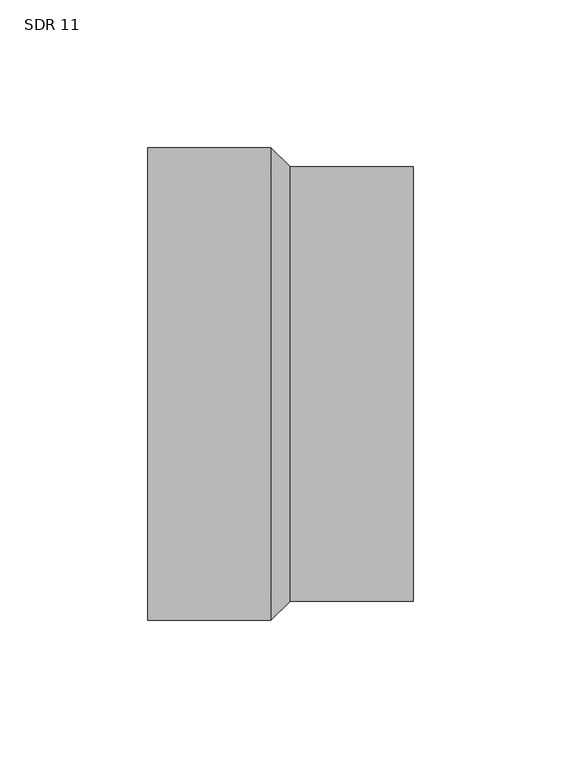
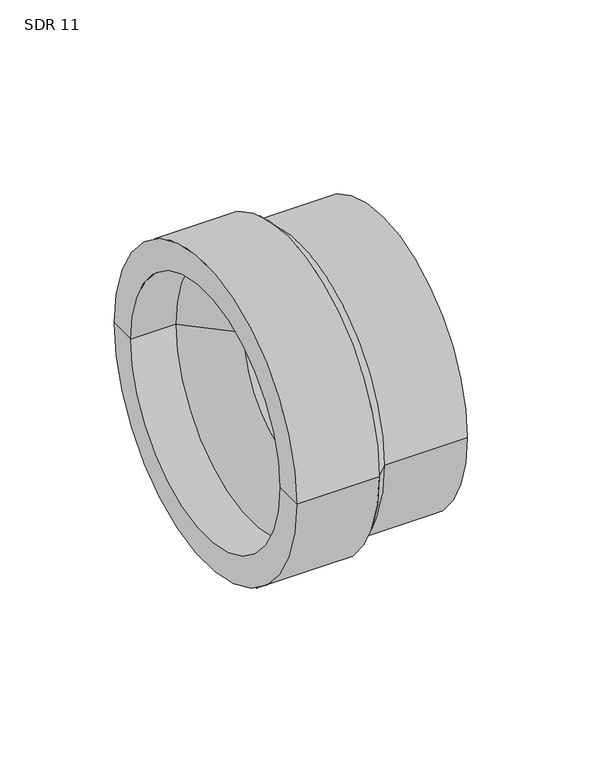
"""IFC4 building model written with IfcOpenShell, lengths in millimetres: pipe fitting geometry, Aquatherm - Reducing Coupling Butt Weld to Socket : SDR 11."""

from ifc_helpers import new_model, si_unit, frame, origin, place, context, project, spatial, polyline, circle_curve, source, transform, mapped, element, save
from ifc_brep_helpers import plane_surface, cylinder_surface, revolved_surface, advanced_brep


def sdr_11_aef982d0(model_context):
    return source(origin(), model_context, "Body", "AdvancedBrep", [
        advanced_brep(
        [(3.2385, -73.533, 0.0), (3.2385, 73.533, 0.0), (44.958, 73.533, 0.0), (44.958, -73.533, 0.0), (44.958, 54.991, 0.0), (44.958, -54.991, 0.0), (-22.225, -65.405, 0.0), (-22.225, 65.405, 0.0), (-44.958, 65.405, 0.0), (-44.958, -65.405, 0.0), (-44.958, 80.01, 0.0), (-44.958, -80.01, 0.0), (8.128, 54.991, 0.0), (8.128, -54.991, 0.0), (8.128, 44.958, 0.0), (8.128, -44.958, 0.0), (0.508, 44.958, 0.0), (0.508, -44.958, 0.0), (-3.2385, 80.01, 0.0), (-3.2385, -80.01, 0.0)],
        [
            (0, 1, circle_curve(frame((3.2385, 0.0, 0.0), z_axis=(1.0, 0.0, 0.0), x_axis=(0.0, 1.0, 0.0)), 73.533)),
            (1, 2),
            (2, 3, circle_curve(frame((44.958, 0.0, 0.0), z_axis=(-1.0, 0.0, 0.0), x_axis=(0.0, 1.0, 0.0)), 73.533)),
            (3, 0),
            (1, 0, circle_curve(frame((3.2385, 0.0, 0.0), z_axis=(1.0, 0.0, 0.0), x_axis=(0.0, 1.0, 0.0)), 73.533)),
            (3, 2, circle_curve(frame((44.958, 0.0, 0.0), z_axis=(-1.0, 0.0, 0.0), x_axis=(0.0, 1.0, 0.0)), 73.533)),
            (2, 4),
            (4, 5, circle_curve(frame((44.958, 0.0, 0.0), z_axis=(-1.0, 0.0, 0.0), x_axis=(0.0, 1.0, 0.0)), 54.991)),
            (5, 3),
            (5, 4, circle_curve(frame((44.958, 0.0, 0.0), z_axis=(-1.0, 0.0, 0.0), x_axis=(0.0, 1.0, 0.0)), 54.991)),
            (6, 7, circle_curve(frame((-22.225, 0.0, 0.0), z_axis=(1.0, 0.0, 0.0), x_axis=(0.0, 1.0, 0.0)), 65.405)),
            (7, 8),
            (8, 9, circle_curve(frame((-44.958, 0.0, 0.0), z_axis=(-1.0, 0.0, 0.0), x_axis=(0.0, 1.0, 0.0)), 65.405)),
            (9, 6),
            (7, 6, circle_curve(frame((-22.225, 0.0, 0.0), z_axis=(1.0, 0.0, 0.0), x_axis=(0.0, 1.0, 0.0)), 65.405)),
            (9, 8, circle_curve(frame((-44.958, 0.0, 0.0), z_axis=(-1.0, 0.0, 0.0), x_axis=(0.0, 1.0, 0.0)), 65.405)),
            (8, 10),
            (10, 11, circle_curve(frame((-44.958, 0.0, 0.0), z_axis=(-1.0, 0.0, 0.0), x_axis=(0.0, 1.0, 0.0)), 80.01)),
            (11, 9),
            (11, 10, circle_curve(frame((-44.958, 0.0, 0.0), z_axis=(-1.0, 0.0, 0.0), x_axis=(0.0, 1.0, 0.0)), 80.01)),
            (4, 12),
            (12, 13, circle_curve(frame((8.128, 0.0, 0.0), z_axis=(-1.0, 0.0, 0.0), x_axis=(0.0, 1.0, 0.0)), 54.991)),
            (13, 5),
            (13, 12, circle_curve(frame((8.128, 0.0, 0.0), z_axis=(-1.0, 0.0, 0.0), x_axis=(0.0, 1.0, 0.0)), 54.991)),
            (12, 14),
            (14, 15, circle_curve(frame((8.128, 0.0, 0.0), z_axis=(-1.0, 0.0, 0.0), x_axis=(0.0, 1.0, 0.0)), 44.958)),
            (15, 13),
            (15, 14, circle_curve(frame((8.128, 0.0, 0.0), z_axis=(-1.0, 0.0, 0.0), x_axis=(0.0, 1.0, 0.0)), 44.958)),
            (14, 16),
            (16, 17, circle_curve(frame((0.508, 0.0, 0.0), z_axis=(-1.0, 0.0, 0.0), x_axis=(0.0, 1.0, 0.0)), 44.958)),
            (17, 15),
            (17, 16, circle_curve(frame((0.508, 0.0, 0.0), z_axis=(-1.0, 0.0, 0.0), x_axis=(0.0, 1.0, 0.0)), 44.958)),
            (10, 18),
            (18, 19, circle_curve(frame((-3.2385, 0.0, 0.0), z_axis=(-1.0, 0.0, 0.0), x_axis=(0.0, 1.0, 0.0)), 80.01)),
            (19, 11),
            (19, 18, circle_curve(frame((-3.2385, 0.0, 0.0), z_axis=(-1.0, 0.0, 0.0), x_axis=(0.0, 1.0, 0.0)), 80.01)),
            (16, 7),
            (6, 17),
            (18, 1),
            (0, 19),
        ],
        [
            cylinder_surface(frame((-77.0252293, 0.0, 0.0), z_axis=(-1.0, 0.0, 0.0), x_axis=(0.0, 1.0, 0.0)), 73.533),
            plane_surface(frame((44.958, 0.0, 0.0), z_axis=(1.0, 0.0, 0.0), x_axis=(0.0, 1.0, 0.0))),
            revolved_surface(polyline([(-44.958, 65.405, 0.0), (-22.225, 65.405, 0.0)]), (-77.0252293, 0.0, 0.0), (-1.0, 0.0, 0.0)),
            plane_surface(frame((-44.958, 0.0, 0.0), z_axis=(-1.0, 0.0, 0.0), x_axis=(0.0, 1.0, 0.0))),
            revolved_surface(polyline([(8.128, 54.991, 0.0), (44.958, 54.991, 0.0)]), (-77.0252293, 0.0, 0.0), (-1.0, 0.0, 0.0)),
            plane_surface(frame((8.128, 0.0, 0.0), z_axis=(1.0, 0.0, 0.0), x_axis=(0.0, 1.0, 0.0))),
            revolved_surface(polyline([(0.5079999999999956, 44.958, 0.0), (8.128, 44.958, 0.0)]), (-77.0252293, 0.0, 0.0), (-1.0, 0.0, 0.0)),
            cylinder_surface(frame((-77.0252293, 0.0, 0.0), z_axis=(-1.0, 0.0, 0.0), x_axis=(0.0, 1.0, 0.0)), 80.01),
            revolved_surface(polyline([(-22.225, 65.405, 0.0), (0.508, 44.958, 0.0)]), (-77.0252293, 0.0, 0.0), (-1.0, 0.0, 0.0)),
            revolved_surface(polyline([(3.2385, 73.533, 0.0), (-3.2385, 80.01, 0.0)]), (-77.0252293, 0.0, 0.0), (-1.0, 0.0, 0.0)),
        ],
        [
            (0, [[1, 2, 3, 4]]),
            (0, [[5, -4, 6, -2]]),
            (1, [[-3, 7, 8, 9]]),
            (1, [[-6, -9, 10, -7]]),
            (2, [[11, 12, 13, 14]]),
            (2, [[15, -14, 16, -12]]),
            (3, [[-13, 17, 18, 19]]),
            (3, [[-16, -19, 20, -17]]),
            (4, [[-8, 21, 22, 23]]),
            (4, [[-10, -23, 24, -21]]),
            (5, [[-22, 25, 26, 27]]),
            (5, [[-24, -27, 28, -25]]),
            (6, [[-26, 29, 30, 31]]),
            (6, [[-28, -31, 32, -29]]),
            (7, [[-18, 33, 34, 35]]),
            (7, [[-20, -35, 36, -33]]),
            (8, [[-30, 37, -11, 38]]),
            (8, [[-32, -38, -15, -37]]),
            (9, [[-34, 39, -1, 40]]),
            (9, [[-36, -40, -5, -39]]),
        ],
    ),
    ])


if __name__ == "__main__":
    model = new_model("IFC4")
    model_context = context("Model", 3, world=origin())
    ifc_project = project(units=[si_unit("LENGTHUNIT", "METRE", prefix="MILLI")], contexts=[model_context])
    site = spatial("IfcSite", under=ifc_project)
    building = spatial("IfcBuilding", under=site)
    placement = place(None, origin())
    sdr_11_shape = sdr_11_aef982d0(model_context)
    element("IfcPipeFitting", 1, ObjectType="Aquatherm - Reducing Coupling Butt Weld to Socket : SDR 11", at=placement, inside=building, context=model_context, shape_type="MappedRepresentation", body=[
        mapped(sdr_11_shape, transform((0.0, 0.0, 0.0), x_axis=(1.0, 0.0, 0.0), y_axis=(0.0, 1.0, 0.0), z_axis=(0.0, 0.0, 1.0))),
    ])
    save(model, "model.ifc")
